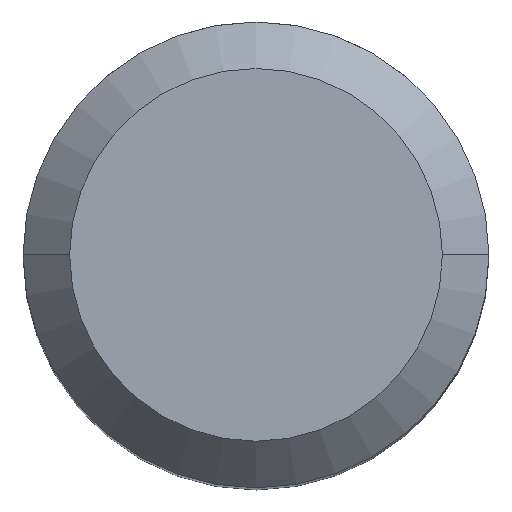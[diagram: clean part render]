
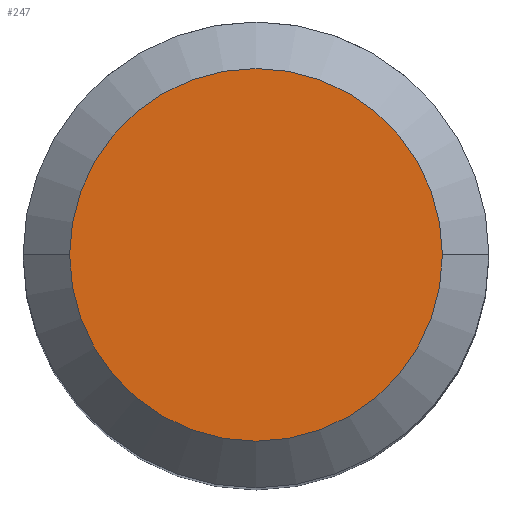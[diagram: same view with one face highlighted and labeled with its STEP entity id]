
A CAD part, top view. The second image highlights one B-rep face of the part: STEP entity #247.
In plain terms, the highlighted planar face has unit normal (0, 0, 1).
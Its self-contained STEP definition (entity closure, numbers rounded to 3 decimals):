
#20 = EDGE_CURVE ( 'NONE', #54, #501, #350, .T. ) ;
#23 = PLANE ( 'NONE',  #394 ) ;
#54 = VERTEX_POINT ( 'NONE', #196 ) ;
#60 = CIRCLE ( 'NONE', #306, 7.2 ) ;
#84 = ORIENTED_EDGE ( 'NONE', *, *, #398, .F. ) ;
#88 = DIRECTION ( 'NONE',  ( -1., 0., 0. ) ) ;
#130 = FACE_OUTER_BOUND ( 'NONE', #344, .T. ) ;
#190 = DIRECTION ( 'NONE',  ( 0., 0., -1. ) ) ;
#196 = CARTESIAN_POINT ( 'NONE',  ( -7.2, 0., 0. ) ) ;
#247 = ADVANCED_FACE ( 'NONE', ( #130 ), #23, .T. ) ;
#306 = AXIS2_PLACEMENT_3D ( 'NONE', #549, #576, #88 ) ;
#344 = EDGE_LOOP ( 'NONE', ( #473, #84 ) ) ;
#350 = CIRCLE ( 'NONE', #425, 7.2 ) ;
#394 = AXIS2_PLACEMENT_3D ( 'NONE', #503, #546, #499 ) ;
#398 = EDGE_CURVE ( 'NONE', #501, #54, #60, .T. ) ;
#425 = AXIS2_PLACEMENT_3D ( 'NONE', #441, #190, #528 ) ;
#441 = CARTESIAN_POINT ( 'NONE',  ( 0., 0., 0. ) ) ;
#473 = ORIENTED_EDGE ( 'NONE', *, *, #20, .F. ) ;
#499 = DIRECTION ( 'NONE',  ( 1., 0., 0. ) ) ;
#501 = VERTEX_POINT ( 'NONE', #616 ) ;
#503 = CARTESIAN_POINT ( 'NONE',  ( 0., 7.2, 0. ) ) ;
#528 = DIRECTION ( 'NONE',  ( -1., 0., 0. ) ) ;
#546 = DIRECTION ( 'NONE',  ( 0., 0., 1. ) ) ;
#549 = CARTESIAN_POINT ( 'NONE',  ( 0., 0., 0. ) ) ;
#576 = DIRECTION ( 'NONE',  ( 0., 0., -1. ) ) ;
#616 = CARTESIAN_POINT ( 'NONE',  ( 7.2, 0., 0. ) ) ;
